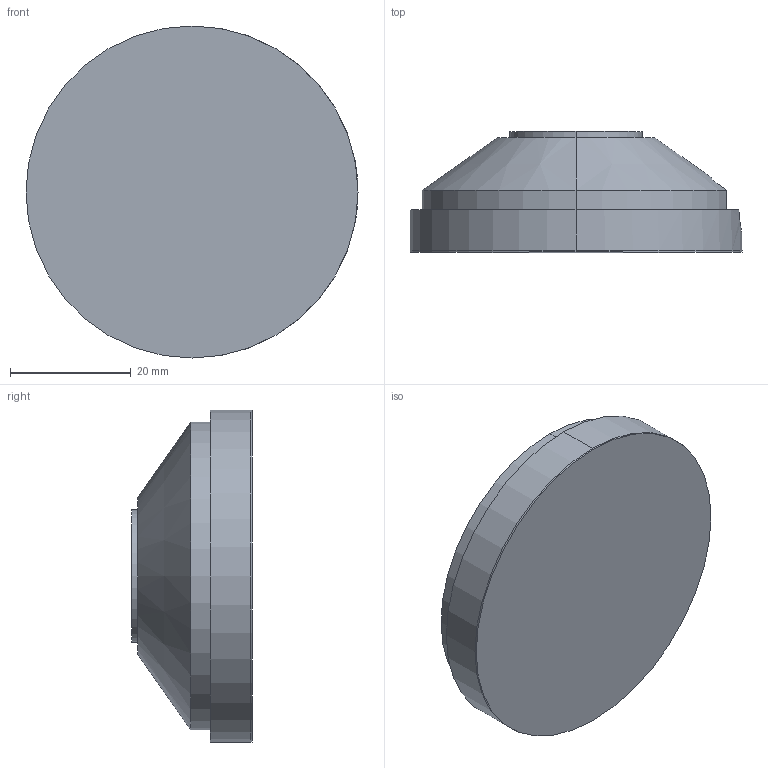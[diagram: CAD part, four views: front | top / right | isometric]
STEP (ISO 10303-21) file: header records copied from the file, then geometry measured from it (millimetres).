
FILE_DESCRIPTION (( 'STEP AP203' ), '1' );
FILE_NAME ('EZ-0053-055 Standardlager Bestell-Nr. 0004740.STEP', '2021-09-16T15:19:45', ( '' ), ( '' ), 'SwSTEP 2.0', 'SolidWorks 2021', '' );
FILE_SCHEMA (( 'CONFIG_CONTROL_DESIGN' ));
Length unit declared in the file: millimetre
Products named in the file (1): EZ-0053-055 Standardlager  Bestell-Nr. 0004740
Bounding box: 55 x 20 x 55 mm (x, y, z)
Volume: 33229.1 mm3; surface area: 12508.2 mm2
Topology: 4 solids, 4 shells, 80 faces, 180 edges, 112 vertices
Faces by surface type: cylinder 34, plane 23, cone 13, torus 8, sphere 2
Entity records: 2426 total; most frequent: CARTESIAN_POINT 512, DIRECTION 421, ORIENTED_EDGE 356, AXIS2_PLACEMENT_3D 179, EDGE_CURVE 178, VERTEX_POINT 112, CIRCLE 98, EDGE_LOOP 90
